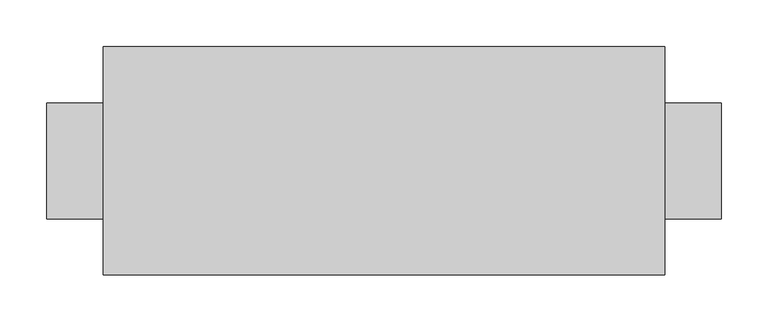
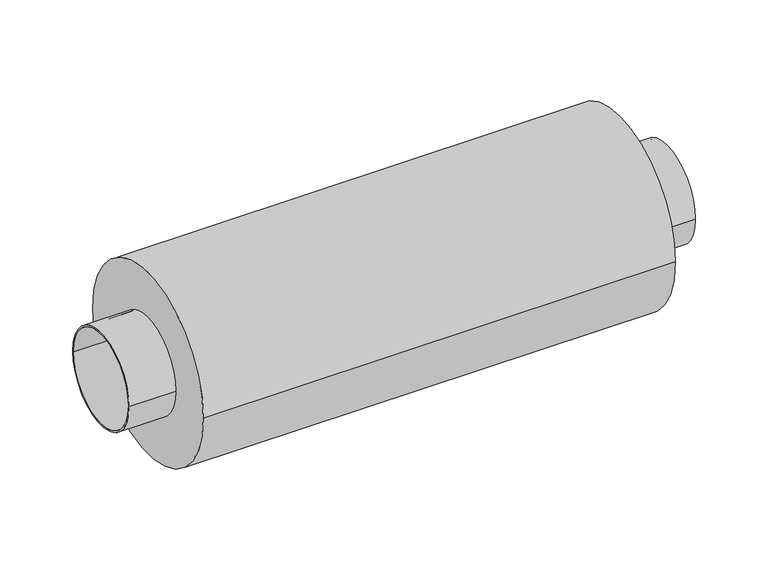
"""IFC4 building model written with IfcOpenShell, lengths in millimetres: damper geometry, СВ_Шумоглушитель_КанальныйКруглый_DN100-315_SHK : SHK-125/600."""

import ifcopenshell
import ifcopenshell.guid

model = None  # the IFC model being written
_history = None  # IfcOwnerHistory: only IFC2X3 demands one
_inside = {}  # id of a spatial element -> (the spatial element, [elements in it])
_under = {}  # id of a project, library or spatial element -> (it, [spatial elements below it])
_declared = {}  # id of a project -> (the project, [libraries it declares])
_typed = {}  # id of a type object -> (the type object, [elements of that type])
_made_of = {}  # id of a material, layer set ... -> (it, [elements and type objects made of it])


def new_model(schema):
    """Start an empty IFC model of exactly this schema.

    Asked for "IFC4X3", IfcOpenShell would pick the latest addendum, in which some entities
    have other attributes; the version numbers below select the first issue.
    IFC2X3 requires an IfcOwnerHistory on every rooted entity: one is made here for all.
    """
    global model, _history
    if schema == "IFC4X3":
        model = ifcopenshell.file(schema_version=(4, 3, 0, 0))
    else:
        model = ifcopenshell.file(schema=schema)
    _inside.clear()
    _under.clear()
    _declared.clear()
    _typed.clear()
    _made_of.clear()
    _history = None
    if model.schema == "IFC2X3":
        org = make("IfcOrganization", Name="unknown")
        user = make(
            "IfcPersonAndOrganization",
            ThePerson=make("IfcPerson", FamilyName="unknown"),
            TheOrganization=org,
        )
        app = make(
            "IfcApplication",
            ApplicationDeveloper=org,
            Version="unknown",
            ApplicationFullName="unknown",
            ApplicationIdentifier="unknown",
        )
        _history = make(
            "IfcOwnerHistory",
            OwningUser=user,
            OwningApplication=app,
            ChangeAction="ADDED",
            CreationDate=0,
        )
    return model


def make(cls, **values):
    """One entity of the class cls with the attributes given. An attribute that is None is left unset."""
    return model.create_entity(
        cls, **{name: value for name, value in values.items() if value is not None}
    )


def rooted(cls, **values):
    """An entity with a GlobalId (a new one), such as an element, a storey or a relation."""
    return make(cls, GlobalId=ifcopenshell.guid.new(), OwnerHistory=_history, **values)


def si_unit(unit_type, name, prefix=None):
    """IfcSIUnit, for example si_unit("LENGTHUNIT", "METRE", prefix="MILLI")."""
    return make("IfcSIUnit", UnitType=unit_type, Prefix=prefix, Name=name)


def assignment(units):
    """IfcUnitAssignment: the units of a project."""
    return None if units is None else make("IfcUnitAssignment", Units=units)


def point(xyz):
    """IfcCartesianPoint."""
    return None if xyz is None else make("IfcCartesianPoint", Coordinates=xyz)


def direction(xyz):
    """IfcDirection."""
    return None if xyz is None else make("IfcDirection", DirectionRatios=xyz)


def frame(location, z_axis=None, x_axis=None):
    """IfcAxis2Placement3D, a coordinate frame: its origin and axes. An axis left out is left unset."""
    return make(
        "IfcAxis2Placement3D",
        Location=point(location),
        Axis=direction(z_axis),
        RefDirection=direction(x_axis),
    )


def frame_2d(location, x_axis=None):
    """IfcAxis2Placement2D, a coordinate frame in the plane: its origin and x axis."""
    return make(
        "IfcAxis2Placement2D", Location=point(location), RefDirection=direction(x_axis)
    )


def origin():
    """The frame at (0, 0, 0) with its axes left unset."""
    return frame((0.0, 0.0, 0.0))


def origin_2d():
    """The frame at (0, 0) in the plane with its x axis left unset."""
    return frame_2d((0.0, 0.0))


def place(relative_to, where):
    """IfcLocalPlacement: puts the frame where relative to a parent placement (None: the world)."""
    return make(
        "IfcLocalPlacement", PlacementRelTo=relative_to, RelativePlacement=where
    )


def context(
    kind, dimensions, precision=None, world=None, true_north=None, identifier=None
):
    """IfcGeometricRepresentationContext, for example the 3D "Model" context."""
    return make(
        "IfcGeometricRepresentationContext",
        ContextIdentifier=identifier,
        ContextType=kind,
        CoordinateSpaceDimension=dimensions,
        Precision=precision,
        WorldCoordinateSystem=world,
        TrueNorth=true_north,
    )


def project(units=None, contexts=None):
    """IfcProject with its units and contexts."""
    return rooted(
        "IfcProject",
        Name="project",
        RepresentationContexts=contexts,
        UnitsInContext=assignment(units),
    )


def spatial(cls, under=None, at=None, **own):
    """A site, building, storey or space (cls), placed at a placement, below another one or the project."""
    s = rooted(cls, ObjectPlacement=at, **own)
    if under is not None:
        _under.setdefault(under.id(), (under, []))[1].append(s)
    return s


def circle_curve(where, radius):
    """IfcCircle in the frame where."""
    return make("IfcCircle", Position=where, Radius=radius)


def trimmed(basis, trim1, trim2, sense, master):
    """IfcTrimmedCurve: the piece of a basis curve between two trims."""
    return make(
        "IfcTrimmedCurve",
        BasisCurve=basis,
        Trim1=trim1,
        Trim2=trim2,
        SenseAgreement=sense,
        MasterRepresentation=master,
    )


def segment(curve, same_sense, transition):
    """IfcCompositeCurveSegment."""
    return make(
        "IfcCompositeCurveSegment",
        Transition=transition,
        SameSense=same_sense,
        ParentCurve=curve,
    )


def composite_curve(segments, self_intersect=None):
    """IfcCompositeCurve: segments joined end to end."""
    return make("IfcCompositeCurve", Segments=segments, SelfIntersect=self_intersect)


def outline(outer, holes=None, kind="AREA"):
    """IfcArbitraryClosedProfileDef: a profile drawn as a closed curve; with holes, ...WithVoids."""
    if holes is None:
        return make("IfcArbitraryClosedProfileDef", ProfileType=kind, OuterCurve=outer)
    return make(
        "IfcArbitraryProfileDefWithVoids",
        ProfileType=kind,
        OuterCurve=outer,
        InnerCurves=holes,
    )


def extrude(swept, where, along, depth):
    """IfcExtrudedAreaSolid: the profile swept, set in the frame where, extruded along a direction by depth."""
    return make(
        "IfcExtrudedAreaSolid",
        SweptArea=swept,
        Position=where,
        ExtrudedDirection=direction(along),
        Depth=depth,
    )


def shape(context_of_items, identifier, shape_type, items):
    """IfcShapeRepresentation: the items that make up one representation, for example the "Body"."""
    return make(
        "IfcShapeRepresentation",
        ContextOfItems=context_of_items,
        RepresentationIdentifier=identifier,
        RepresentationType=shape_type,
        Items=items,
    )


def source(mapping_origin, context_of_items, identifier, shape_type, items):
    """IfcRepresentationMap: a shape defined once, which mapped items show again and again."""
    return make(
        "IfcRepresentationMap",
        MappingOrigin=mapping_origin,
        MappedRepresentation=shape(context_of_items, identifier, shape_type, items),
    )


def transform(
    local_origin,
    x_axis=None,
    y_axis=None,
    z_axis=None,
    scale=None,
    scale2=None,
    scale3=None,
    uniform=True,
):
    """IfcCartesianTransformationOperator3D, or its non-uniform kind. x_axis, y_axis, z_axis: its Axis1, 2, 3."""
    if uniform:
        return make(
            "IfcCartesianTransformationOperator3D",
            Axis1=direction(x_axis),
            Axis2=direction(y_axis),
            LocalOrigin=point(local_origin),
            Scale=scale,
            Axis3=direction(z_axis),
        )
    return make(
        "IfcCartesianTransformationOperator3DnonUniform",
        Axis1=direction(x_axis),
        Axis2=direction(y_axis),
        LocalOrigin=point(local_origin),
        Scale=scale,
        Axis3=direction(z_axis),
        Scale2=scale2,
        Scale3=scale3,
    )


def mapped(mapping_source, mapping_target):
    """IfcMappedItem: shows the shape of a source again, moved by a transform."""
    return make(
        "IfcMappedItem", MappingSource=mapping_source, MappingTarget=mapping_target
    )


def made_of(thing, what):
    """Note that an element or type object is made of a material, layer set ...; save() writes the relation."""
    if what is not None:
        _made_of.setdefault(what.id(), (what, []))[1].append(thing)
    return thing


def element(
    cls,
    number,
    at=None,
    inside=None,
    cuts=None,
    type_object=None,
    material=None,
    context=None,
    identifier="Body",
    shape_type=None,
    held_by="IfcProductDefinitionShape",
    body=None,
    shapes=None,
    **own,
):
    """One element of the class cls, such as IfcWall. Its Tag is "e" and its number.

    at: its placement. inside: the storey or other place that contains it. cuts: it is an
    opening in that element (IfcRelVoidsElement). A single representation is given by context,
    identifier, shape_type and body (its items); several are given by shapes. held_by: the class
    of the entity that holds the representations. save() writes the other relations.
    """
    e = rooted(cls, Tag="e%d" % number, ObjectPlacement=at, **own)
    if body is not None:
        shapes = [shape(context, identifier, shape_type, body)]
    if shapes is not None:
        e.Representation = make(held_by, Representations=shapes)
    if inside is not None:
        _inside.setdefault(inside.id(), (inside, []))[1].append(e)
    if cuts is not None:
        rooted(
            "IfcRelVoidsElement", RelatingBuildingElement=cuts, RelatedOpeningElement=e
        )
    if type_object is not None:
        _typed.setdefault(type_object.id(), (type_object, []))[1].append(e)
    return made_of(e, material)


def aggregate(whole, parts):
    """IfcRelAggregates: a whole, such as a stair, and the parts it consists of."""
    return rooted("IfcRelAggregates", RelatingObject=whole, RelatedObjects=parts)


def save(model, path):
    """Write the relations noted so far, then the file.

    IfcRelAggregates (storeys below a building ...), IfcRelContainedInSpatialStructure (elements
    in a storey), IfcRelDefinesByType, IfcRelAssociatesMaterial and IfcRelDeclares: one each for
    every whole, place, type object, material and project.
    """
    for whole, parts in _under.values():
        aggregate(whole, parts)
    for where, things in _inside.values():
        rooted(
            "IfcRelContainedInSpatialStructure",
            RelatedElements=things,
            RelatingStructure=where,
        )
    for kind, things in _typed.values():
        rooted("IfcRelDefinesByType", RelatedObjects=things, RelatingType=kind)
    for what, things in _made_of.values():
        rooted("IfcRelAssociatesMaterial", RelatedObjects=things, RelatingMaterial=what)
    for by, libraries in _declared.values():
        rooted("IfcRelDeclares", RelatingContext=by, RelatedDefinitions=libraries)
    model.write(path)


def damper_d244b016(model_context):
    return source(origin(), model_context, "Body", "SweptSolid", [
        extrude(outline(composite_curve([segment(trimmed(circle_curve(origin_2d(), 122.0), [point((-122.0, 0.0))], [point((122.0, 0.0))], False, "CARTESIAN"), True, "CONTINUOUS"), segment(trimmed(circle_curve(origin_2d(), 122.0), [point((122.0, 0.0))], [point((-122.0, 0.0))], False, "CARTESIAN"), True, "CONTINUOUS")], self_intersect=False)), frame((-300.0, 0.0, 0.0), z_axis=(1.0, 0.0, 0.0), x_axis=(0.0, 1.0, 0.0)), (0.0, 0.0, 1.0), 600.0),
        extrude(outline(composite_curve([segment(trimmed(circle_curve(origin_2d(), 62.0), [point((-62.0, 0.0))], [point((62.0, 0.0))], False, "CARTESIAN"), True, "CONTINUOUS"), segment(trimmed(circle_curve(origin_2d(), 62.0), [point((62.0, 0.0))], [point((-62.0, 0.0))], False, "CARTESIAN"), True, "CONTINUOUS")], self_intersect=False), holes=[composite_curve([segment(trimmed(circle_curve(origin_2d(), 60.0), [point((-60.0, 0.0))], [point((60.0, 0.0))], True, "CARTESIAN"), True, "CONTINUOUS"), segment(trimmed(circle_curve(origin_2d(), 60.0), [point((60.0, 0.0))], [point((-60.0, 0.0))], True, "CARTESIAN"), True, "CONTINUOUS")], self_intersect=False)]), frame((-360.0, 0.0, 0.0), z_axis=(1.0, 0.0, 0.0), x_axis=(0.0, 1.0, 0.0)), (0.0, 0.0, 1.0), 60.0),
        extrude(outline(composite_curve([segment(trimmed(circle_curve(origin_2d(), 62.0), [point((-62.0, 0.0))], [point((62.0, 0.0))], False, "CARTESIAN"), True, "CONTINUOUS"), segment(trimmed(circle_curve(origin_2d(), 62.0), [point((62.0, 0.0))], [point((-62.0, 0.0))], False, "CARTESIAN"), True, "CONTINUOUS")], self_intersect=False), holes=[composite_curve([segment(trimmed(circle_curve(origin_2d(), 60.0), [point((-60.0, 0.0))], [point((60.0, 0.0))], True, "CARTESIAN"), True, "CONTINUOUS"), segment(trimmed(circle_curve(origin_2d(), 60.0), [point((60.0, 0.0))], [point((-60.0, 0.0))], True, "CARTESIAN"), True, "CONTINUOUS")], self_intersect=False)]), frame((300.0, 0.0, 0.0), z_axis=(1.0, 0.0, 0.0), x_axis=(0.0, 1.0, 0.0)), (0.0, 0.0, 1.0), 60.0),
    ])


if __name__ == "__main__":
    model = new_model("IFC4")
    model_context = context("Model", 3, world=origin())
    ifc_project = project(units=[si_unit("LENGTHUNIT", "METRE", prefix="MILLI")], contexts=[model_context])
    site = spatial("IfcSite", under=ifc_project)
    building = spatial("IfcBuilding", under=site)
    placement = place(None, origin())
    damper_shape = damper_d244b016(model_context)
    element("IfcDamper", 1, ObjectType="СВ_Шумоглушитель_КанальныйКруглый_DN100-315_SHK : SHK-125/600", at=placement, inside=building, context=model_context, shape_type="MappedRepresentation", body=[
        mapped(damper_shape, transform((0.0, 0.0, 0.0), x_axis=(1.0, 0.0, 0.0), y_axis=(0.0, 1.0, 0.0), z_axis=(0.0, 0.0, 1.0))),
    ])
    save(model, "model.ifc")
